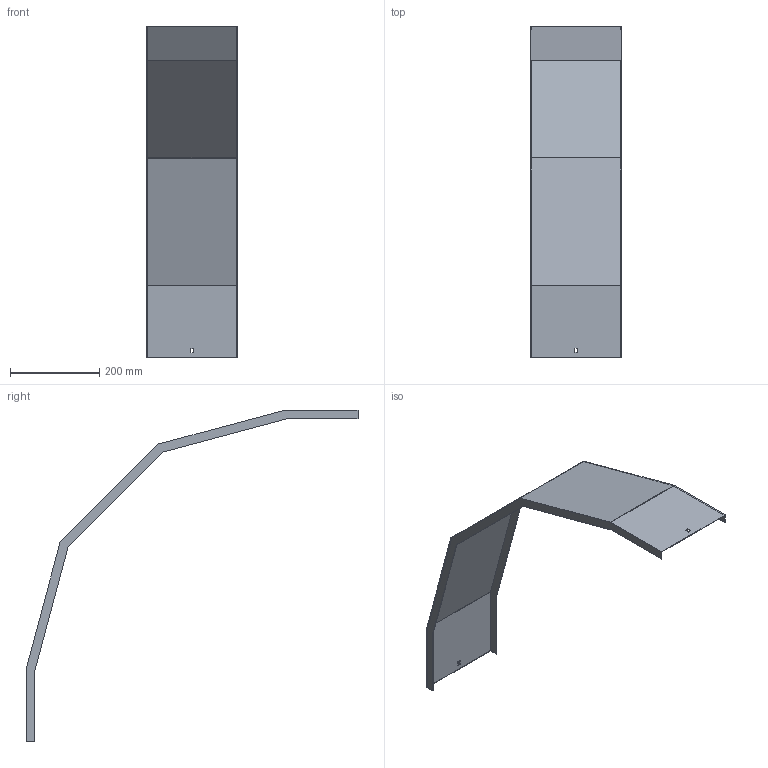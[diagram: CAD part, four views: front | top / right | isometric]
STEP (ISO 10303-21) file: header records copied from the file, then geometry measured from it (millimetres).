
FILE_DESCRIPTION (( 'STEP AP214' ), '1' );
FILE_NAME ('33N5C200.step', '2025-02-21T10:42:41', ( '' ), ( '' ), 'SwSTEP 2.0', 'SolidWorks 2023', '' );
FILE_SCHEMA (( 'AUTOMOTIVE_DESIGN' ));
Length unit declared in the file: millimetre
Products named in the file (1): 33N5C200
Bounding box: 203 x 745.38 x 745.38 mm (x, y, z)
Volume: 440934.3 mm3; surface area: 592320.1 mm2
Topology: 1 solids, 1 shells, 34 faces, 96 edges, 64 vertices
Faces by surface type: plane 34
Entity records: 1111 total; most frequent: CARTESIAN_POINT 195, ORIENTED_EDGE 192, DIRECTION 166, VECTOR 96, EDGE_CURVE 96, LINE 96, VERTEX_POINT 64, EDGE_LOOP 38
